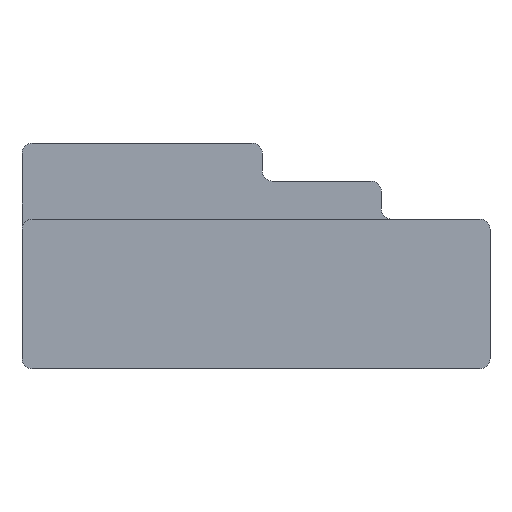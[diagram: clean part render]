
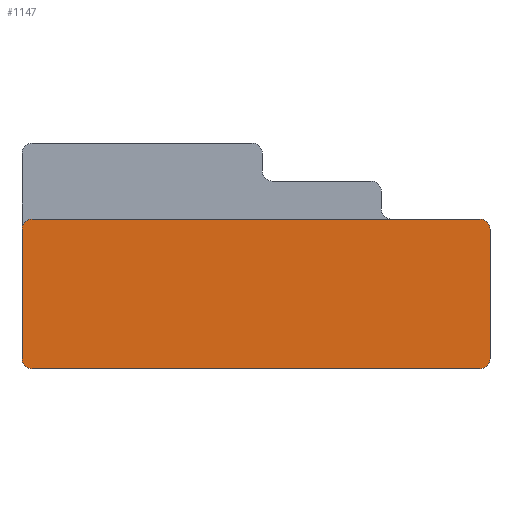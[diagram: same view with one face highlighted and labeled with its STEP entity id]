
A CAD part, front view. The second image highlights one B-rep face of the part: STEP entity #1147.
In plain terms, the highlighted planar face has unit normal (0, -1, 0).
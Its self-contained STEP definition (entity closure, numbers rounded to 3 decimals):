
#210=CARTESIAN_POINT('',(-10.9,-11.6,6.8));
#211=DIRECTION('',(0.,-1.,0.));
#212=DIRECTION('',(0.,0.,1.));
#213=AXIS2_PLACEMENT_3D('',#210,#211,#212);
#215=CARTESIAN_POINT('',(10.9,-11.6,6.8));
#216=DIRECTION('',(0.,-1.,0.));
#217=DIRECTION('',(1.,0.,0.));
#218=AXIS2_PLACEMENT_3D('',#215,#216,#217);
#220=CARTESIAN_POINT('',(10.9,-11.6,0.5));
#221=DIRECTION('',(0.,-1.,0.));
#222=DIRECTION('',(0.,0.,-1.));
#223=AXIS2_PLACEMENT_3D('',#220,#221,#222);
#225=CARTESIAN_POINT('',(-10.9,-11.6,0.5));
#226=DIRECTION('',(0.,-1.,0.));
#227=DIRECTION('',(-1.,0.,0.));
#228=AXIS2_PLACEMENT_3D('',#225,#226,#227);
#230=DIRECTION('',(0.,0.,1.));
#231=VECTOR('',#230,6.3);
#232=CARTESIAN_POINT('',(-11.4,-11.6,0.5));
#233=LINE('',#232,#231);
#318=DIRECTION('',(1.,0.,0.));
#319=VECTOR('',#318,21.8);
#320=CARTESIAN_POINT('',(-10.9,-11.6,7.3));
#321=LINE('',#320,#319);
#510=DIRECTION('',(1.,0.,0.));
#511=VECTOR('',#510,21.8);
#512=CARTESIAN_POINT('',(-10.9,-11.6,0.));
#513=LINE('',#512,#511);
#580=DIRECTION('',(0.,0.,1.));
#581=VECTOR('',#580,6.3);
#582=CARTESIAN_POINT('',(11.4,-11.6,0.5));
#583=LINE('',#582,#581);
#744=CARTESIAN_POINT('',(-10.9,-11.6,7.3));
#745=CARTESIAN_POINT('',(-11.4,-11.6,6.8));
#746=VERTEX_POINT('',#744);
#747=VERTEX_POINT('',#745);
#772=CARTESIAN_POINT('',(11.4,-11.6,6.8));
#773=VERTEX_POINT('',#772);
#774=CARTESIAN_POINT('',(10.9,-11.6,7.3));
#775=VERTEX_POINT('',#774);
#776=CARTESIAN_POINT('',(10.9,-11.6,0.));
#777=CARTESIAN_POINT('',(11.4,-11.6,0.5));
#778=VERTEX_POINT('',#776);
#779=VERTEX_POINT('',#777);
#788=CARTESIAN_POINT('',(-11.4,-11.6,0.5));
#789=VERTEX_POINT('',#788);
#790=CARTESIAN_POINT('',(-10.9,-11.6,0.));
#791=VERTEX_POINT('',#790);
#1125=CARTESIAN_POINT('',(-11.4,-11.6,0.));
#1126=DIRECTION('',(0.,-1.,0.));
#1127=DIRECTION('',(1.,0.,0.));
#1128=AXIS2_PLACEMENT_3D('',#1125,#1126,#1127);
#1129=PLANE('',#1128);
#1131=ORIENTED_EDGE('',*,*,#1130,.F.);
#1133=ORIENTED_EDGE('',*,*,#1132,.T.);
#1135=ORIENTED_EDGE('',*,*,#1134,.F.);
#1137=ORIENTED_EDGE('',*,*,#1136,.F.);
#1138=ORIENTED_EDGE('',*,*,#1115,.F.);
#1140=ORIENTED_EDGE('',*,*,#1139,.F.);
#1142=ORIENTED_EDGE('',*,*,#1141,.F.);
#1144=ORIENTED_EDGE('',*,*,#1143,.T.);
#1145=EDGE_LOOP('',(#1131,#1133,#1135,#1137,#1138,#1140,#1142,#1144));
#1146=FACE_OUTER_BOUND('',#1145,.F.);
#1147=ADVANCED_FACE('',(#1146),#1129,.T.);
#214=CIRCLE('',#213,0.5);
#219=CIRCLE('',#218,0.5);
#224=CIRCLE('',#223,0.5);
#229=CIRCLE('',#228,0.5);
#1115=EDGE_CURVE('',#778,#779,#224,.T.);
#1130=EDGE_CURVE('',#746,#747,#214,.T.);
#1132=EDGE_CURVE('',#746,#775,#321,.T.);
#1134=EDGE_CURVE('',#773,#775,#219,.T.);
#1136=EDGE_CURVE('',#779,#773,#583,.T.);
#1139=EDGE_CURVE('',#791,#778,#513,.T.);
#1141=EDGE_CURVE('',#789,#791,#229,.T.);
#1143=EDGE_CURVE('',#789,#747,#233,.T.);
